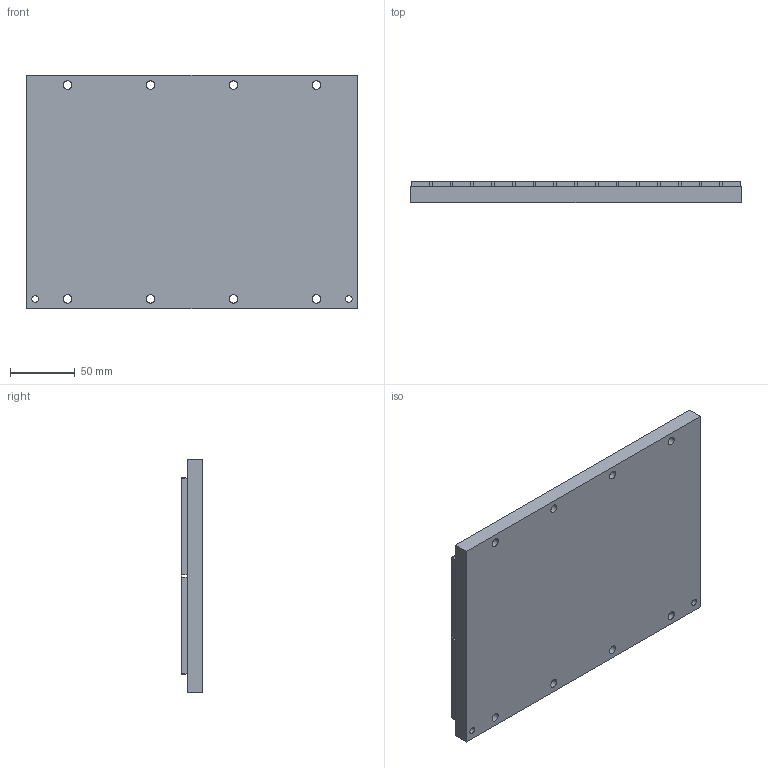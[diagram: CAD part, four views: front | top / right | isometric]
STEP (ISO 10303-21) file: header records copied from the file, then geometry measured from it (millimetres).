
FILE_DESCRIPTION((''),'2;1');
FILE_NAME('MC150-0256-WC','2007-01-14T',('saurabh.singhal'),(''),'PRO/ENGINEER BY PARAMETRIC TECHNOLOGY CORPORATION, 2005450','PRO/ENGINEER BY PARAMETRIC TECHNOLOGY CORPORATION, 2005450','');
FILE_SCHEMA(('CONFIG_CONTROL_DESIGN'));
Length unit declared in the file: millimetre
Products named in the file (1): MC150-0256-WC
Bounding box: 255.3 x 16.4 x 180 mm (x, y, z)
Volume: 689624.3 mm3; surface area: 209252 mm2
Topology: 1 solids, 1 shells, 218 faces, 528 edges, 352 vertices
Faces by surface type: plane 182, cylinder 36
Entity records: 6386 total; most frequent: CARTESIAN_POINT 1098, ORIENTED_EDGE 1056, DIRECTION 1036, EDGE_CURVE 528, VECTOR 456, LINE 456, VERTEX_POINT 352, AXIS2_PLACEMENT_3D 290
